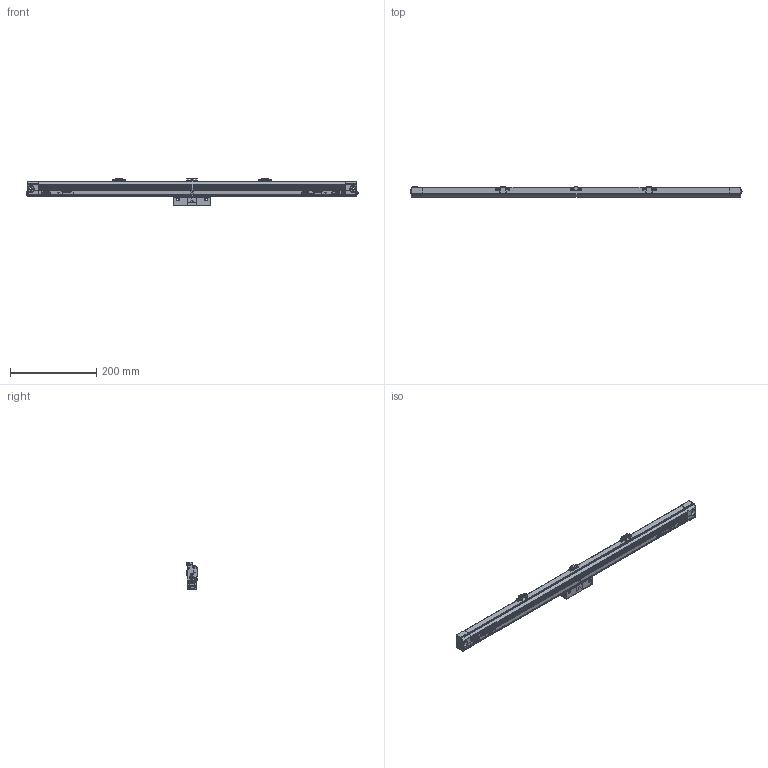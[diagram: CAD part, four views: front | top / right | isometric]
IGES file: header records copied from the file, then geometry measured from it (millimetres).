
Start section: Elysium IGES Interface
Global section: file name: 99H\\Utsu119s\kiyo_cad\data\3D\ABS AT1300\HP掲載用_201802\ABS AT1300-Hシリーズ\PKG\ABS AT1300-600H.igs; native system: Creo Elements/Direct Modeling 18.1B  29-Sep-2012; preprocessor: Creo Element/Direct IGES_3D V2.2; author: Unknown; organization: Unknown; date: 20180222.174134; units: millimetre
Bounding box: 771.9 x 24 x 64.5 mm (x, y, z)
Volume: 578046.7 mm3; surface area: 116390.8 mm2
Topology: 2 solids, 25 shells, 1732 faces, 4773 edges, 3239 vertices
Faces by surface type: bspline 1732
